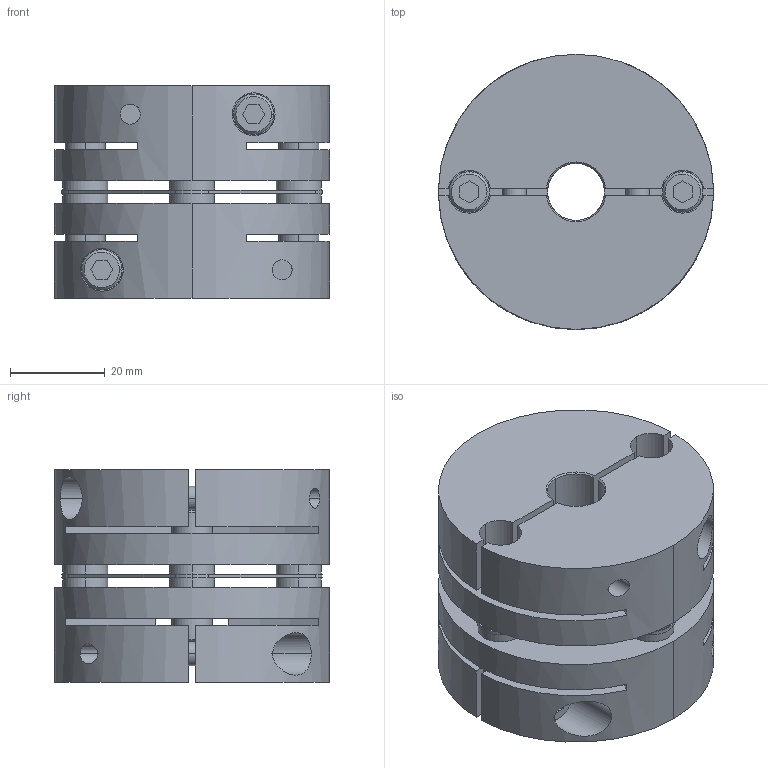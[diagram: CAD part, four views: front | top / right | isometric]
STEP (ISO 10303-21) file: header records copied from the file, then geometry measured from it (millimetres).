
FILE_DESCRIPTION((''),'2;1');
FILE_NAME('LAS-58C-12×18.stp','2015-10-14T15:55:54',(''),(''),'AutoCAD STEP 2000i','AutoCAD 2000i',', , ');
FILE_SCHEMA(('CONFIG_CONTROL_DESIGN'));
Length unit declared in the file: millimetre
Products named in the file (6): LAS-58C-12×19; 忣兜1; LA-5802-D19; LA-5802-D12-1; LA-5802-D12; LAS58-ITA
Assembly tree (5 placements, depth 2):
  LAS-58C-12×19
    忣兜1
    LA-5802-D19
    LA-5802-D12-1
    LA-5802-D12
    LAS58-ITA
Bounding box: 58 x 58 x 44.8 mm (x, y, z)
Volume: 88906.7 mm3; surface area: 33478.7 mm2
Topology: 1 solids, 1 shells, 238 faces, 618 edges, 404 vertices
Faces by surface type: plane 114, cylinder 96, cone 28
Entity records: 8213 total; most frequent: CARTESIAN_POINT 1988, DIRECTION 1316, ORIENTED_EDGE 1240, EDGE_CURVE 620, AXIS2_PLACEMENT_3D 484, VERTEX_POINT 404, VECTOR 348, LINE 348
